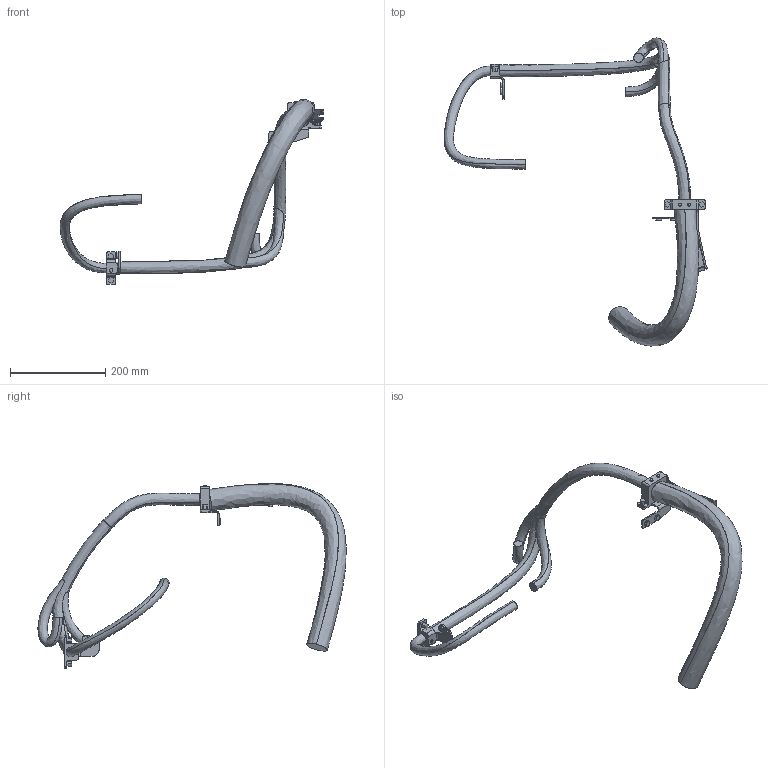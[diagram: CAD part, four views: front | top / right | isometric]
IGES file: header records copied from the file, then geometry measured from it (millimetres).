
Start section: SolidWorks IGES file using analytic representation for surfaces
Global section: file name: C:\Users\SEALDUN\OneDrive - ABB\Documents\R&D Robotics\Work Items\WI 632927\IGES\IRB5710-LID-MH_90kg-230_OC_02_IGES_J\IRB5710-LID_90kg-230_OmniCore_rev00_LINK03m_CABLE.igs; native system: SolidWorks 2024; preprocessor: SolidWorks 2024; author: SEALDUN; date: 250707.154200; units: millimetre
Bounding box: 554.06 x 647.11 x 387.52 mm (x, y, z)
Surface area: 229706.5 mm2 (no closed solid volume)
Topology: 0 solids, 0 shells, 250 faces, 3570 edges, 3570 vertices
Faces by surface type: bspline 149, revolution 101
